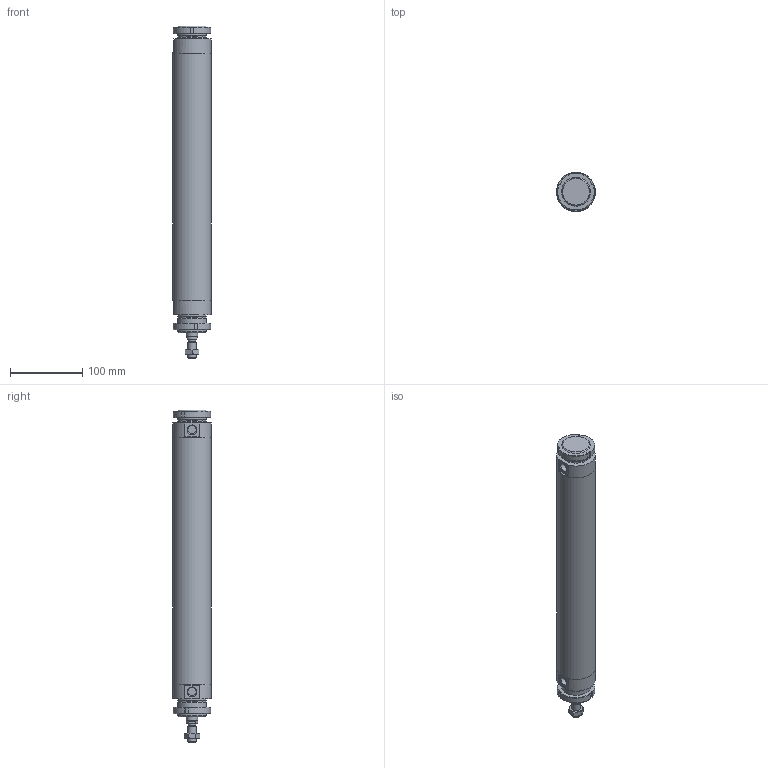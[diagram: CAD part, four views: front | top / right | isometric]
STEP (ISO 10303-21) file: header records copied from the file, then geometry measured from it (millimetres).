
FILE_DESCRIPTION(/* description */ (''),/* implementation_level */ '2;1');
FILE_NAME(/* name */ 'I:\Area Tecnica\Documenti\A-Manieri\_Inventor\12X\12X#C_###_####_#_#\12XAC_050_0300_#_#.stp',/* time_stamp */ '2015-04-28T15:20:06+02:00',/* author */ ('maniean1'),/* organization */ ('Pneumax S.p.A.'),/* preprocessor_version */ 'ST-DEVELOPER v15.2',/* originating_system */ 'Autodesk Inventor 2014',/* authorisation */ '');
FILE_SCHEMA (('AUTOMOTIVE_DESIGN { 1 0 10303 214 3 1 1 }'));
Length unit declared in the file: millimetre
Products named in the file (7): C1250_619-0300; 12X50_604; S12X50_0300; 12X_50_11; 12X50_620; G12X_050_05; 12XAC_050_0300_#_#
Bounding box: 54 x 54 x 460 mm (x, y, z)
Volume: 419758.1 mm3; surface area: 174804.1 mm2
Topology: 7 solids, 7 shells, 106 faces, 240 edges, 154 vertices
Faces by surface type: plane 52, cylinder 27, cone 27
Full cylindrical faces by diameter (mm): 10.2 x1, 11.4 x2, 12 x2, 14 x1, 15.6 x1, 16 x1, 38.2 x2, 40 x6, 50 x2, 54 x3
Entity records: 2243 total; most frequent: CARTESIAN_POINT 413, DIRECTION 382, ORIENTED_EDGE 292, AXIS2_PLACEMENT_3D 165, EDGE_CURVE 146, EDGE_LOOP 132, VERTEX_POINT 112, ADVANCED_FACE 85
